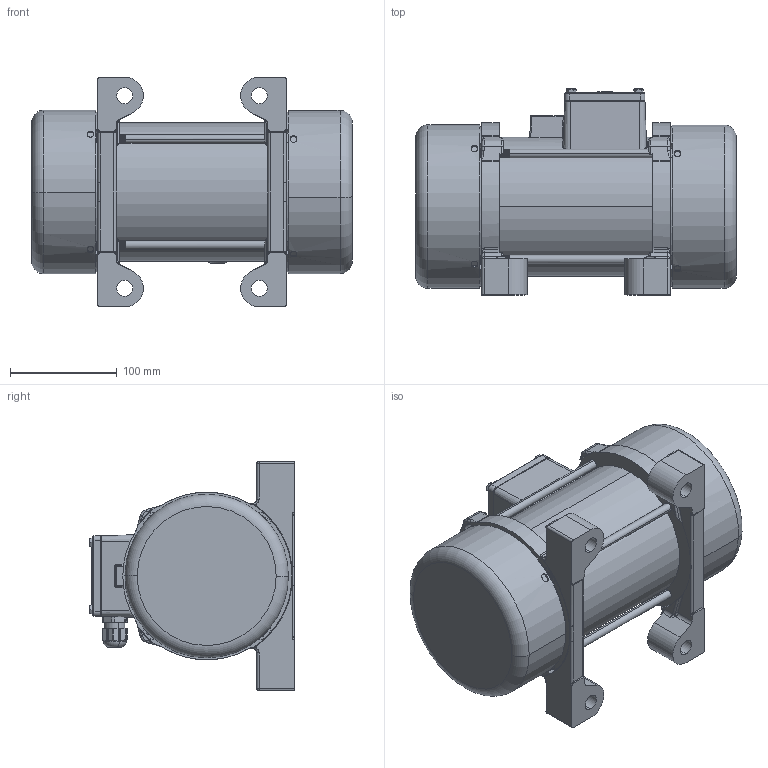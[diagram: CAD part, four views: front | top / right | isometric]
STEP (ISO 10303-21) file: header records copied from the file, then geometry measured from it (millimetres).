
FILE_DESCRIPTION (( 'STEP AP214' ), '1' );
FILE_NAME ('VEMS_80-2-53.STEP', '2019-01-18T06:56:28', ( '' ), ( '' ), 'SwSTEP 2.0', 'SolidWorks 2018', '' );
FILE_SCHEMA (( 'AUTOMOTIVE_DESIGN' ));
Length unit declared in the file: millimetre
Products named in the file (12): Rakor_Gövde_Pg11; Rakor_Tapa_Pg11; Rakor_Komple-Ara_Pg11_Varsay考an; Kapak_ayaklý_KapsonsPaket_iþl_VEMS80_DOLU; KlemensKapaðý_iþl_VEMS80ve90; VEMS_80-2-53; Gövde_boru_KapsonsPaket_iþl_VEMS80_DOLU; MuhafazaTasý_VEMS80_80-2-50-Boy60; Civata_Silindirik-AltýköþeOyuklu_M8x170x30; Rakor_Þapka_Pg11; Civata_Alt齂鳋e_M5x15xTP_ISO 4014 - M5 x 25 x 25-S; Somun_Alt齂鳋e_M8_ISO 4014 - M5 x 25 x 16-S
Assembly tree (22 placements, depth 3):
  VEMS_80-2-53
    Gövde_boru_KapsonsPaket_iþl_VEMS80_DOLU
    Kapak_ayaklý_KapsonsPaket_iþl_VEMS80_DOLU  x2
    MuhafazaTasý_VEMS80_80-2-50-Boy60  x2
    KlemensKapaðý_iþl_VEMS80ve90
    Civata_Alt齂鳋e_M5x15xTP_ISO 4014 - M5 x 25 x 25-S  x4
    Rakor_Komple-Ara_Pg11_Varsay考an
      Rakor_Gövde_Pg11
      Rakor_Tapa_Pg11
      Rakor_Þapka_Pg11
    Civata_Silindirik-AltýköþeOyuklu_M8x170x30  x4
    Somun_Alt齂鳋e_M8_ISO 4014 - M5 x 25 x 16-S  x4
Bounding box: 300 x 192.5 x 215 mm (x, y, z)
Volume: 5602925.9 mm3; surface area: 432897.9 mm2
Topology: 21 solids, 21 shells, 2133 faces, 5472 edges, 3378 vertices
Faces by surface type: cylinder 854, plane 512, cone 412, torus 213, bspline 124, sphere 18
Entity records: 44268 total; most frequent: CARTESIAN_POINT 16434, ORIENTED_EDGE 5784, DIRECTION 5753, EDGE_CURVE 2892, AXIS2_PLACEMENT_3D 2289, VERTEX_POINT 1810, EDGE_LOOP 1208, CIRCLE 1207
